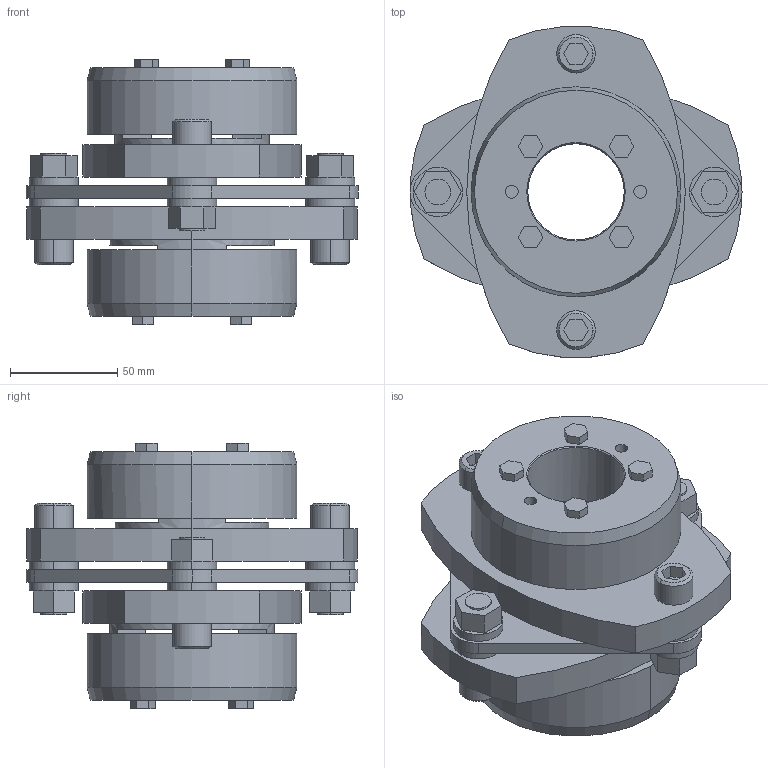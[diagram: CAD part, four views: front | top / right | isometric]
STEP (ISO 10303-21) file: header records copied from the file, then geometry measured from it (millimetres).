
FILE_DESCRIPTION((''),'2;1');
FILE_NAME('LCS-155T7-45×50.stp','2011-09-08T10:41:09',(''),(''),'AutoCAD STEP 2000i','AutoCAD 2000i',', , ');
FILE_SCHEMA(('CONFIG_CONTROL_DESIGN'));
Length unit declared in the file: millimetre
Products named in the file (6): LCS-155T7-45×50; 忣兜1; LC155T7-T050; LC155T7-T045-1; LC155T7-T045; LCS155-ITA
Assembly tree (5 placements, depth 2):
  LCS-155T7-45×50
    忣兜1
    LC155T7-T050
    LC155T7-T045-1
    LC155T7-T045
    LCS155-ITA
Bounding box: 155 x 154.9 x 124 mm (x, y, z)
Volume: 818818 mm3; surface area: 145157.1 mm2
Topology: 1 solids, 1 shells, 246 faces, 606 edges, 398 vertices
Faces by surface type: plane 146, cylinder 80, cone 20
Entity records: 7485 total; most frequent: DIRECTION 1308, CARTESIAN_POINT 1256, ORIENTED_EDGE 1212, EDGE_CURVE 606, AXIS2_PLACEMENT_3D 450, VECTOR 408, LINE 408, VERTEX_POINT 398
